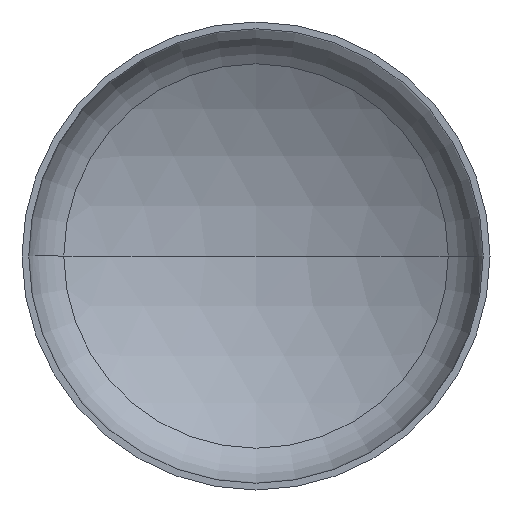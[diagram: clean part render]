
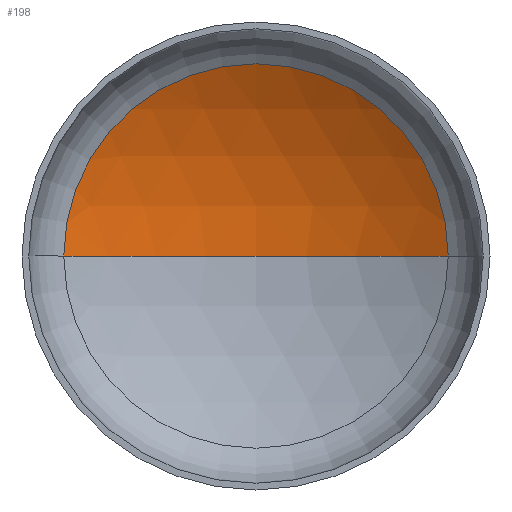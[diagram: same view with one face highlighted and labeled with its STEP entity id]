
A CAD part, front view. The second image highlights one B-rep face of the part: STEP entity #198.
In plain terms, the highlighted spherical face has radius 6000 mm.
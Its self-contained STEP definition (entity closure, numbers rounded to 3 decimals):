
#15 = CIRCLE ( 'NONE', #43, 6000. ) ;
#22 = AXIS2_PLACEMENT_3D ( 'NONE', #357, #225, #222 ) ;
#29 = VERTEX_POINT ( 'NONE', #248 ) ;
#43 = AXIS2_PLACEMENT_3D ( 'NONE', #322, #318, #321 ) ;
#47 = AXIS2_PLACEMENT_3D ( 'NONE', #150, #148, #335 ) ;
#49 = AXIS2_PLACEMENT_3D ( 'NONE', #128, #295, #305 ) ;
#79 = EDGE_CURVE ( 'NONE', #97, #111, #257, .T. ) ;
#80 = EDGE_CURVE ( 'NONE', #29, #97, #170, .T. ) ;
#84 = EDGE_LOOP ( 'NONE', ( #179, #123, #110 ) ) ;
#85 = EDGE_CURVE ( 'NONE', #29, #111, #15, .T. ) ;
#97 = VERTEX_POINT ( 'NONE', #189 ) ;
#110 = ORIENTED_EDGE ( 'NONE', *, *, #79, .T. ) ;
#111 = VERTEX_POINT ( 'NONE', #397 ) ;
#123 = ORIENTED_EDGE ( 'NONE', *, *, #80, .T. ) ;
#128 = CARTESIAN_POINT ( 'NONE',  ( 0., 1066.223, 0. ) ) ;
#148 = DIRECTION ( 'NONE',  ( 0., 0., -1. ) ) ;
#150 = CARTESIAN_POINT ( 'NONE',  ( 0., -4082.987, 0. ) ) ;
#170 = CIRCLE ( 'NONE', #47, 6000. ) ;
#179 = ORIENTED_EDGE ( 'NONE', *, *, #85, .F. ) ;
#189 = CARTESIAN_POINT ( 'NONE',  ( 3079.876, 1066.223, 0. ) ) ;
#198 = ADVANCED_FACE ( 'NONE', ( #235 ), #353, .F. ) ;
#222 = DIRECTION ( 'NONE',  ( -1., 0., 0. ) ) ;
#225 = DIRECTION ( 'NONE',  ( 0., 0., -1. ) ) ;
#235 = FACE_OUTER_BOUND ( 'NONE', #84, .T. ) ;
#248 = CARTESIAN_POINT ( 'NONE',  ( 0., 1917.013, 0. ) ) ;
#257 = CIRCLE ( 'NONE', #49, 3079.876 ) ;
#295 = DIRECTION ( 'NONE',  ( 0., -1., 0. ) ) ;
#305 = DIRECTION ( 'NONE',  ( 1., 0., 0. ) ) ;
#318 = DIRECTION ( 'NONE',  ( 0., 0., 1. ) ) ;
#321 = DIRECTION ( 'NONE',  ( 1., 0., 0. ) ) ;
#322 = CARTESIAN_POINT ( 'NONE',  ( 0., -4082.987, 0. ) ) ;
#335 = DIRECTION ( 'NONE',  ( -1., 0., 0. ) ) ;
#353 = SPHERICAL_SURFACE ( 'NONE', #22, 6000. ) ;
#357 = CARTESIAN_POINT ( 'NONE',  ( 0., -4082.987, 0. ) ) ;
#397 = CARTESIAN_POINT ( 'NONE',  ( -3079.876, 1066.223, 0. ) ) ;
